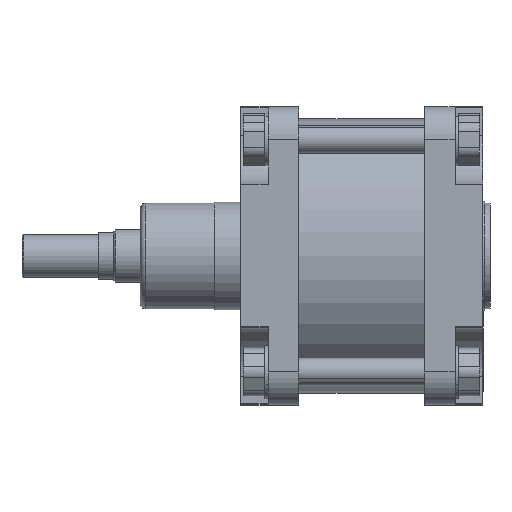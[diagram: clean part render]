
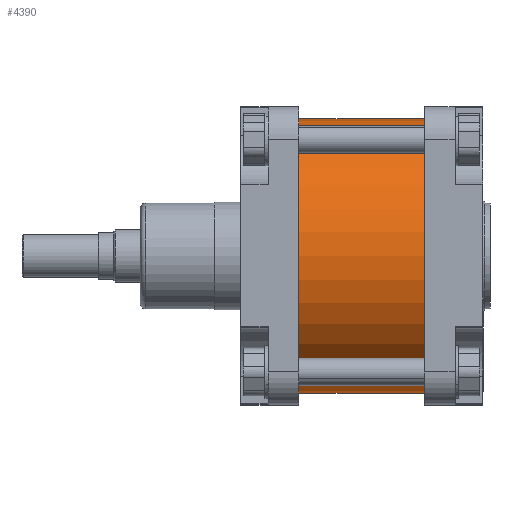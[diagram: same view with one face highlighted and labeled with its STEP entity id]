
A CAD part, top view. The second image highlights one B-rep face of the part: STEP entity #4390.
In plain terms, the highlighted cylindrical face has radius 130 mm (diameter 260 mm), a partial arc.
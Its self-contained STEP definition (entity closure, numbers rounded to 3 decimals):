
#2320=CARTESIAN_POINT('Vertex',(-50.,-130.,0.)) ;
#2322=CARTESIAN_POINT('Vertex',(-50.,130.,0.)) ;
#2325=CARTESIAN_POINT('Axis2P3D Location',(-50.,0.,0.)) ;
#4360=CARTESIAN_POINT('Axis2P3D Location',(9.5,0.,0.)) ;
#4365=CARTESIAN_POINT('Line Origine',(9.5,130.,0.)) ;
#4369=CARTESIAN_POINT('Vertex',(69.,130.,0.)) ;
#4372=CARTESIAN_POINT('Line Origine',(9.5,-130.,0.)) ;
#4376=CARTESIAN_POINT('Vertex',(69.,-130.,0.)) ;
#4379=CARTESIAN_POINT('Axis2P3D Location',(69.,0.,0.)) ;
#2326=DIRECTION('Axis2P3D Direction',(-1.,0.,0.)) ;
#4361=DIRECTION('Axis2P3D Direction',(1.,-0.,0.)) ;
#4362=DIRECTION('Axis2P3D XDirection',(0.,1.,0.)) ;
#4366=DIRECTION('Vector Direction',(1.,0.,0.)) ;
#4373=DIRECTION('Vector Direction',(1.,0.,0.)) ;
#4380=DIRECTION('Axis2P3D Direction',(1.,-0.,0.)) ;
#2327=AXIS2_PLACEMENT_3D('Circle Axis2P3D',#2325,#2326,$) ;
#4363=AXIS2_PLACEMENT_3D('Cylinder Axis2P3D',#4360,#4361,#4362) ;
#4381=AXIS2_PLACEMENT_3D('Circle Axis2P3D',#4379,#4380,$) ;
#4385=ORIENTED_EDGE('',*,*,#4371,.F.) ;
#4386=ORIENTED_EDGE('',*,*,#2329,.T.) ;
#4387=ORIENTED_EDGE('',*,*,#4378,.T.) ;
#4388=ORIENTED_EDGE('',*,*,#4383,.F.) ;
#4367=VECTOR('Line Direction',#4366,1.) ;
#4374=VECTOR('Line Direction',#4373,1.) ;
#4390=ADVANCED_FACE('PartBody',(#4389),#4364,.T.) ;
#2328=CIRCLE('generated circle',#2327,130.) ;
#4382=CIRCLE('generated circle',#4381,130.) ;
#4364=CYLINDRICAL_SURFACE('generated cylinder',#4363,130.) ;
#2329=EDGE_CURVE('',#2323,#2321,#2328,.F.) ;
#4371=EDGE_CURVE('',#2323,#4370,#4368,.T.) ;
#4378=EDGE_CURVE('',#2321,#4377,#4375,.T.) ;
#4383=EDGE_CURVE('',#4370,#4377,#4382,.T.) ;
#4384=EDGE_LOOP('',(#4385,#4386,#4387,#4388)) ;
#4389=FACE_OUTER_BOUND('',#4384,.T.) ;
#4368=LINE('Line',#4365,#4367) ;
#4375=LINE('Line',#4372,#4374) ;
#2321=VERTEX_POINT('',#2320) ;
#2323=VERTEX_POINT('',#2322) ;
#4370=VERTEX_POINT('',#4369) ;
#4377=VERTEX_POINT('',#4376) ;
